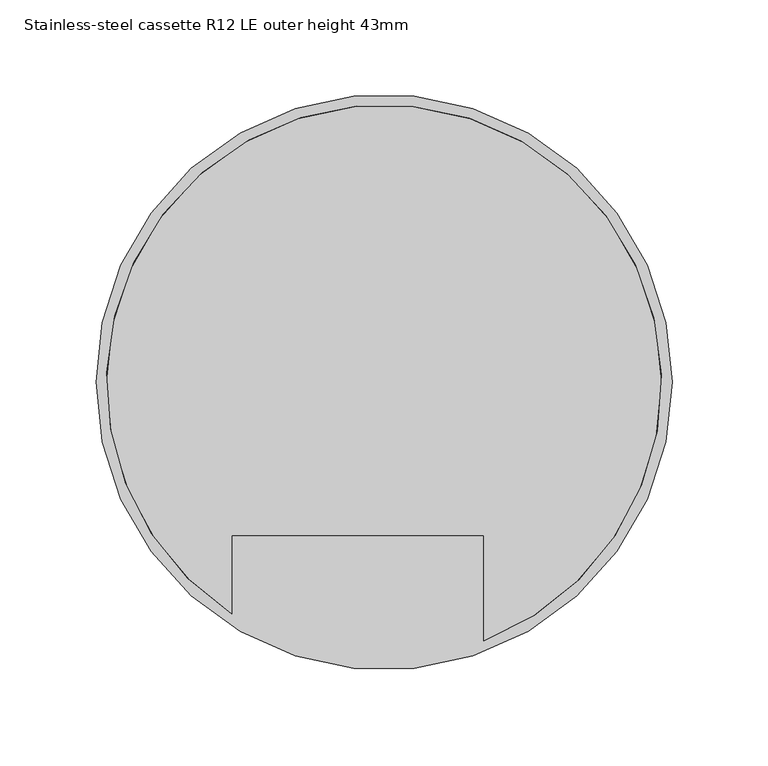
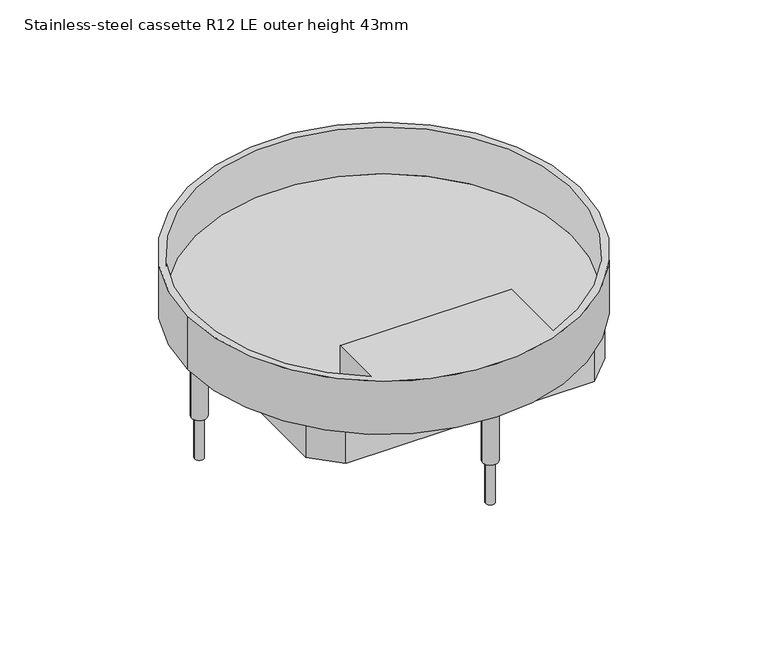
"""IFC4 building model written with IfcOpenShell, lengths in millimetres: proxy geometry, Electrical_Installation_Hager_VE-EE_EKR-Height-adjustable-stainless-steel-cassette-with-square-cable-outlet-for-dry-cleaned-floors : Stainless-steel cassette R12 LE outer height 43mm."""

from ifc_helpers import new_model, si_unit, point, frame, frame_2d, origin, place, context, project, spatial, polyline, circle_curve, trimmed, segment, composite_curve, outline, extrude, source, transform, mapped, element, save
from ifc_brep_helpers import plane_surface, cylinder_surface, revolved_surface, advanced_brep


def stainless_steel_cassette_r12_le_outer_height_43mm_344dba82(model_context):
    return source(origin(), model_context, "Body", "SolidModel", [
        extrude(outline(composite_curve([segment(trimmed(circle_curve(frame_2d((-141.3, 0.0)), 3.5), [point((-144.8, 0.0))], [point((-137.8, 0.0))], False, "CARTESIAN"), True, "CONTINUOUS"), segment(trimmed(circle_curve(frame_2d((-141.3, 0.0)), 3.5), [point((-137.8, 0.0))], [point((-144.8, 0.0))], False, "CARTESIAN"), True, "CONTINUOUS")], self_intersect=False)), frame((0.0, 0.0, -115.0), z_axis=(0.0, 0.0, 1.0), x_axis=(1.0, 0.0, 0.0)), (0.0, 0.0, 1.0), 74.011943),
        extrude(outline(composite_curve([segment(trimmed(circle_curve(frame_2d((0.0, 141.3)), 3.5), [point((-3.5, 141.3))], [point((3.5, 141.3))], False, "CARTESIAN"), True, "CONTINUOUS"), segment(trimmed(circle_curve(frame_2d((0.0, 141.3)), 3.5), [point((3.5, 141.3))], [point((-3.5, 141.3))], False, "CARTESIAN"), True, "CONTINUOUS")], self_intersect=False)), frame((0.0, 0.0, -115.0), z_axis=(0.0, 0.0, 1.0), x_axis=(1.0, 0.0, 0.0)), (0.0, 0.0, 1.0), 74.011943),
        extrude(outline(composite_curve([segment(trimmed(circle_curve(frame_2d((141.3, 0.0)), 3.548869), [point((137.751131, 0.0))], [point((144.848869, 0.0))], False, "CARTESIAN"), True, "CONTINUOUS"), segment(trimmed(circle_curve(frame_2d((141.3, 0.0)), 3.548869), [point((144.848869, 0.0))], [point((137.751131, 0.0))], False, "CARTESIAN"), True, "CONTINUOUS")], self_intersect=False)), frame((0.0, 0.0, -115.0), z_axis=(0.0, 0.0, 1.0), x_axis=(1.0, 0.0, 0.0)), (0.0, 0.0, 1.0), 74.011943),
        extrude(outline(composite_curve([segment(trimmed(circle_curve(frame_2d((0.0, -141.3)), 3.5), [point((-3.5, -141.3))], [point((3.5, -141.3))], False, "CARTESIAN"), True, "CONTINUOUS"), segment(trimmed(circle_curve(frame_2d((0.0, -141.3)), 3.5), [point((3.5, -141.3))], [point((-3.5, -141.3))], False, "CARTESIAN"), True, "CONTINUOUS")], self_intersect=False)), frame((0.0, 0.0, -115.0), z_axis=(0.0, 0.0, 1.0), x_axis=(1.0, 0.0, 0.0)), (0.0, 0.0, 1.0), 74.011943),
        advanced_brep(
        [(-144.5, 0.0, -35.988057), (-79.2284089, -120.8433251, -35.988057), (-79.2284089, -79.7709238, -35.988057), (51.8974749, -79.7709238, -35.988057), (51.8974749, -134.8588228, -35.988057), (144.5, 0.0, -35.988057), (-150.0, 0.0, -40.988057), (150.0, 0.0, -40.988057), (-150.0, 0.0, 2.011943), (150.0, 0.0, 2.011943), (-79.2284089, -120.8433251, 2.011943), (51.8974749, -134.8588228, 2.011943), (51.8974749, -79.7709238, 2.011943), (-79.2284089, -79.7709238, 2.011943)],
        [
            (0, 1, circle_curve(frame((0.0, 0.0, -35.988057), z_axis=(0.0, 0.0, 1.0), x_axis=(1.0, 0.0, 0.0)), 144.5)),
            (1, 2),
            (2, 3),
            (3, 4),
            (4, 5, circle_curve(frame((0.0, 0.0, -35.988057), z_axis=(0.0, 0.0, 1.0), x_axis=(1.0, 0.0, 0.0)), 144.5)),
            (5, 0, circle_curve(frame((0.0, 0.0, -35.988057), z_axis=(0.0, 0.0, 1.0), x_axis=(1.0, 0.0, 0.0)), 144.5)),
            (6, 7, circle_curve(frame((0.0, 0.0, -40.988057), z_axis=(0.0, 0.0, -1.0), x_axis=(1.0, 0.0, 0.0)), 150.0)),
            (7, 6, circle_curve(frame((0.0, 0.0, -40.988057), z_axis=(0.0, 0.0, -1.0), x_axis=(1.0, 0.0, 0.0)), 150.0)),
            (8, 9, circle_curve(frame((0.0, 0.0, 2.011943), z_axis=(0.0, 0.0, 1.0), x_axis=(1.0, 0.0, 0.0)), 150.0)),
            (9, 8, circle_curve(frame((0.0, 0.0, 2.011943), z_axis=(0.0, 0.0, 1.0), x_axis=(1.0, 0.0, 0.0)), 150.0)),
            (10, 11, circle_curve(frame((0.0, 0.0, 2.011943), z_axis=(0.0, 0.0, -1.0), x_axis=(1.0, 0.0, 0.0)), 144.5)),
            (11, 12),
            (12, 13),
            (13, 10),
            (8, 6),
            (7, 9),
            (10, 1),
            (4, 11),
            (3, 12),
            (2, 13),
        ],
        [
            plane_surface(frame((144.5, 0.0, -35.988057), z_axis=(0.0, 0.0, 1.0), x_axis=(0.0, 1.0, 0.0))),
            plane_surface(frame((144.5, 0.0, -40.988057), z_axis=(0.0, 0.0, -1.0), x_axis=(0.0, -1.0, 0.0))),
            plane_surface(frame((150.0, 0.0, 2.011943), z_axis=(0.0, 0.0, 1.0), x_axis=(0.0, 1.0, 0.0))),
            cylinder_surface(frame((0.0, 0.0, -40.988057), z_axis=(0.0, 0.0, 1.0), x_axis=(1.0, 0.0, 0.0)), 150.0),
            revolved_surface(polyline([(144.5, 0.0, -35.988057), (144.5, 0.0, 2.011943)]), (0.0, 0.0, 0.0), (0.0, 0.0, -1.0)),
            plane_surface(frame((51.8974749, -134.8588228, 2.011943), z_axis=(1.0, 0.0, 0.0), x_axis=(0.0, 0.0, -1.0))),
            plane_surface(frame((51.8974749, -79.7709238, 2.011943), z_axis=(0.0, 1.0, 0.0), x_axis=(0.0, 0.0, -1.0))),
            plane_surface(frame((-79.2284089, -79.7709238, 2.011943), z_axis=(-1.0, 0.0, 0.0), x_axis=(0.0, 0.0, -1.0))),
        ],
        [
            (0, [[1, 2, 3, 4, 5, 6]]),
            (1, [[7, 8]]),
            (2, [[9, 10], [11, 12, 13, 14]]),
            (3, [[-9, 15, -8, 16]]),
            (3, [[-10, -16, -7, -15]]),
            (4, [[-11, 17, -1, -6, -5, 18]]),
            (5, [[-12, -18, -4, 19]]),
            (6, [[-13, -19, -3, 20]]),
            (7, [[-14, -20, -2, -17]]),
        ],
    ),
        extrude(outline(polyline([(94.9818914, 114.5), (114.5, 94.9818914), (114.5, -94.9818914), (94.9818914, -114.5), (-94.9818914, -114.5), (-114.5, -94.9818914), (-114.5, 94.9818914), (-94.9818914, 114.5), (94.9818914, 114.5)]), holes=[polyline([(-111.5, 93.8602374), (-111.5, -93.8602374), (-93.8602374, -111.5), (93.8602374, -111.5), (111.5, -93.8602374), (111.5, 93.8602374), (93.8602374, 111.5), (-93.8602374, 111.5), (-111.5, 93.8602374)])]), frame((0.0, 0.0, -66.9297651), z_axis=(0.0, 0.0, 1.0), x_axis=(1.0, 0.0, 0.0)), (0.0, 0.0, 1.0), 25.9417081),
        extrude(outline(composite_curve([segment(trimmed(circle_curve(frame_2d((0.0, 141.3)), 5.9738904), [point((-5.9738904, 141.3))], [point((5.9738904, 141.3))], False, "CARTESIAN"), True, "CONTINUOUS"), segment(trimmed(circle_curve(frame_2d((0.0, 141.3)), 5.9738904), [point((5.9738904, 141.3))], [point((-5.9738904, 141.3))], False, "CARTESIAN"), True, "CONTINUOUS")], self_intersect=False)), frame((0.0, 0.0, -81.0371838), z_axis=(0.0, 0.0, 1.0), x_axis=(1.0, 0.0, 0.0)), (0.0, 0.0, 1.0), 40.0491267),
        extrude(outline(composite_curve([segment(trimmed(circle_curve(frame_2d((141.3, 0.0)), 6.0), [point((135.3, 0.0))], [point((147.3, 0.0))], False, "CARTESIAN"), True, "CONTINUOUS"), segment(trimmed(circle_curve(frame_2d((141.3, 0.0)), 6.0), [point((147.3, 0.0))], [point((135.3, 0.0))], False, "CARTESIAN"), True, "CONTINUOUS")], self_intersect=False)), frame((0.0, 0.0, -81.0371838), z_axis=(0.0, 0.0, 1.0), x_axis=(1.0, 0.0, 0.0)), (0.0, 0.0, 1.0), 40.0491267),
        extrude(outline(composite_curve([segment(trimmed(circle_curve(frame_2d((0.0, -141.3)), 6.0), [point((-6.0, -141.3))], [point((6.0, -141.3))], False, "CARTESIAN"), True, "CONTINUOUS"), segment(trimmed(circle_curve(frame_2d((0.0, -141.3)), 6.0), [point((6.0, -141.3))], [point((-6.0, -141.3))], False, "CARTESIAN"), True, "CONTINUOUS")], self_intersect=False)), frame((0.0, 0.0, -81.0371838), z_axis=(0.0, 0.0, 1.0), x_axis=(1.0, 0.0, 0.0)), (0.0, 0.0, 1.0), 40.0491267),
        extrude(outline(composite_curve([segment(trimmed(circle_curve(frame_2d((-141.3, 0.0)), 6.0), [point((-147.3, 0.0))], [point((-135.3, 0.0))], False, "CARTESIAN"), True, "CONTINUOUS"), segment(trimmed(circle_curve(frame_2d((-141.3, 0.0)), 6.0), [point((-135.3, 0.0))], [point((-147.3, 0.0))], False, "CARTESIAN"), True, "CONTINUOUS")], self_intersect=False)), frame((0.0, 0.0, -81.0371838), z_axis=(0.0, 0.0, 1.0), x_axis=(1.0, 0.0, 0.0)), (0.0, 0.0, 1.0), 40.0491267),
    ])


if __name__ == "__main__":
    model = new_model("IFC4")
    model_context = context("Model", 3, world=origin())
    ifc_project = project(units=[si_unit("LENGTHUNIT", "METRE", prefix="MILLI")], contexts=[model_context])
    site = spatial("IfcSite", under=ifc_project)
    building = spatial("IfcBuilding", under=site)
    placement = place(None, origin())
    stainless_steel_cassette_r12_le_outer_height_43mm_shape = stainless_steel_cassette_r12_le_outer_height_43mm_344dba82(model_context)
    element("IfcBuildingElementProxy", 1, Name="Electrical_Installation_Hager_VE-EE_EKR-Height-adjustable-stainless-steel-cassette-with-square-cable-outlet-for-dry-cleaned-floors : Stainless-steel cassette R12 LE outer height 43mm", ObjectType="Electrical_Installation_Hager_VE-EE_EKR-Height-adjustable-stainless-steel-cassette-with-square-cable-outlet-for-dry-cleaned-floors : Stainless-steel cassette R12 LE outer height 43mm", at=placement, inside=building, context=model_context, shape_type="MappedRepresentation", body=[
        mapped(stainless_steel_cassette_r12_le_outer_height_43mm_shape, transform((0.0, 0.0, 0.0), x_axis=(1.0, 0.0, 0.0), y_axis=(0.0, 1.0, 0.0), z_axis=(0.0, 0.0, 1.0))),
    ])
    save(model, "model.ifc")
